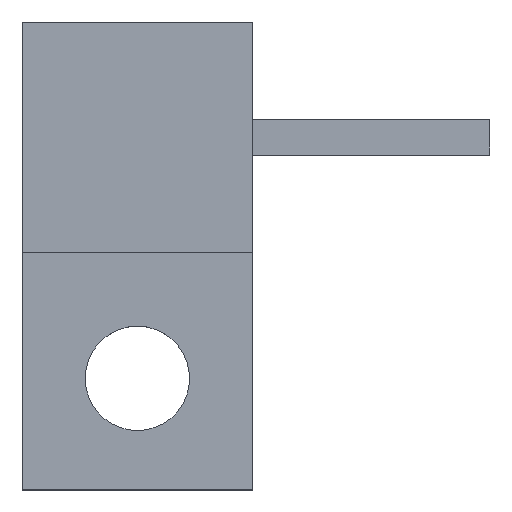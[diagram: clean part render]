
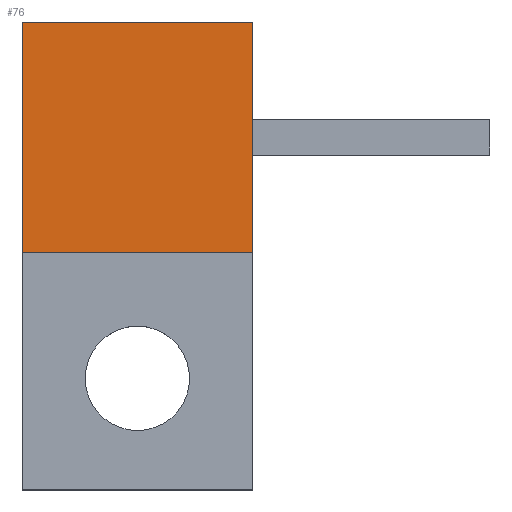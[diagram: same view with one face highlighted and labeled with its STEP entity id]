
A CAD part, top view. The second image highlights one B-rep face of the part: STEP entity #76.
In plain terms, the highlighted planar face has unit normal (0, 0, 1).
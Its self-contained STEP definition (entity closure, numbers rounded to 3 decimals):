
#76=ADVANCED_FACE('',(#198),#200,.T.);
#198=FACE_BOUND('',#199,.T.);
#199=EDGE_LOOP('',(#300,#301,#302,#303));
#200=PLANE('',#201);
#201=AXIS2_PLACEMENT_3D('',#202,#203,#204);
#202=CARTESIAN_POINT('',(0.,0.,3.7));
#203=DIRECTION('',(0.,0.,1.));
#204=DIRECTION('',(-1.,0.,0.));
#300=ORIENTED_EDGE('',*,*,#361,.T.);
#301=ORIENTED_EDGE('',*,*,#363,.T.);
#302=ORIENTED_EDGE('',*,*,#364,.T.);
#303=ORIENTED_EDGE('',*,*,#355,.T.);
#355=EDGE_CURVE('',#389,#387,#390,.T.);
#361=EDGE_CURVE('',#387,#399,#401,.T.);
#363=EDGE_CURVE('',#399,#403,#404,.T.);
#364=EDGE_CURVE('',#403,#389,#405,.T.);
#387=VERTEX_POINT('',#441);
#389=VERTEX_POINT('',#445);
#390=LINE('',#446,#447);
#399=VERTEX_POINT('',#465);
#401=LINE('',#469,#470);
#403=VERTEX_POINT('',#475);
#404=LINE('',#476,#477);
#405=LINE('',#479,#480);
#441=CARTESIAN_POINT('',(-3.2,0.1,3.7));
#445=CARTESIAN_POINT('',(-3.2,6.5,3.7));
#446=CARTESIAN_POINT('',(-3.2,6.5,3.7));
#447=VECTOR('',#448,1.);
#448=DIRECTION('',(0.,-1.,0.));
#465=CARTESIAN_POINT('',(3.2,0.1,3.7));
#469=CARTESIAN_POINT('',(-3.2,0.1,3.7));
#470=VECTOR('',#471,1.);
#471=DIRECTION('',(1.,0.,0.));
#475=CARTESIAN_POINT('',(3.2,6.5,3.7));
#476=CARTESIAN_POINT('',(3.2,0.1,3.7));
#477=VECTOR('',#478,1.);
#478=DIRECTION('',(0.,1.,0.));
#479=CARTESIAN_POINT('',(3.2,6.5,3.7));
#480=VECTOR('',#481,1.);
#481=DIRECTION('',(-1.,0.,0.));
